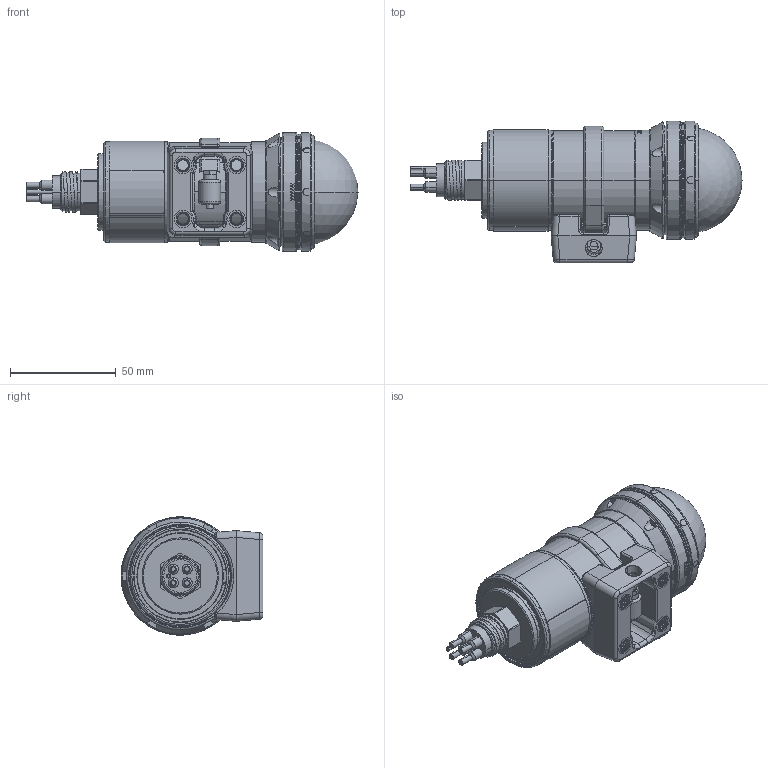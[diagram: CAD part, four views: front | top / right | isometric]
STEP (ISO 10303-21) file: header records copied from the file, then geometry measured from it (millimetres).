
FILE_DESCRIPTION (( 'STEP AP203' ), '1' );
FILE_NAME ('SWSC-X070-X-TI-X-SUMCBH4MS (STEP).STEP', '2024-06-17T21:39:57', ( '' ), ( '' ), 'SwSTEP 2.0', 'SolidWorks 2023', '' );
FILE_SCHEMA (( 'CONFIG_CONTROL_DESIGN' ));
Length unit declared in the file: millimetre
Products named in the file (1): SWSC-X070-X-TI-X-SUMCBH4MS (STEP)
Bounding box: 157.15 x 67.13 x 56 mm (x, y, z)
Surface area: 46173.2 mm2 (no closed solid volume)
Topology: 0 solids, 42 shells, 671 faces, 2454 edges, 1803 vertices
Faces by surface type: cylinder 295, plane 110, bspline 101, torus 92, cone 63, sphere 10
Entity records: 48636 total; most frequent: CARTESIAN_POINT 30734, ORIENTED_EDGE 3764, DIRECTION 3089, EDGE_CURVE 2446, VERTEX_POINT 1803, AXIS2_PLACEMENT_3D 1248, B_SPLINE_CURVE_WITH_KNOTS 859, EDGE_LOOP 730
